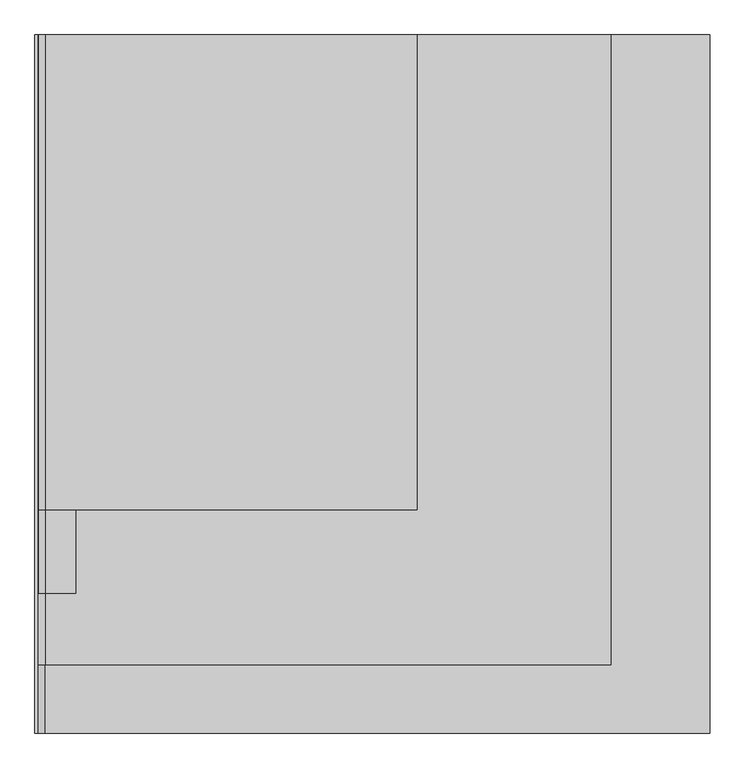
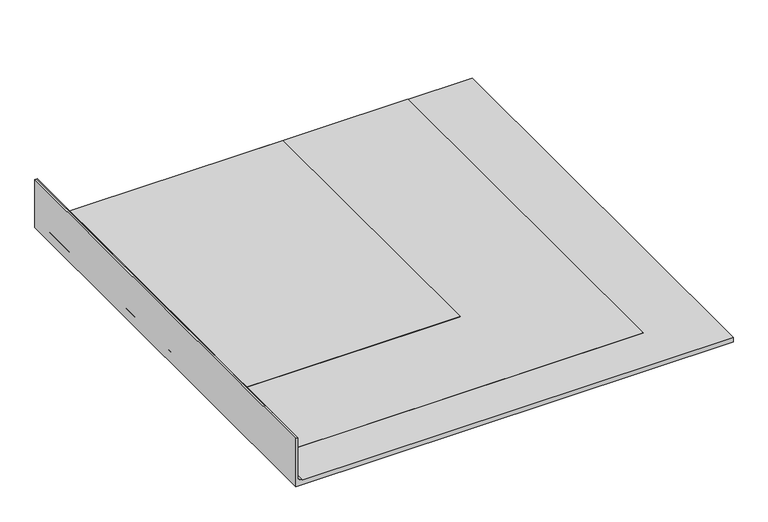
"""IFC4 building model written with IfcOpenShell, lengths in millimetres: proxy geometry, IMPER:IMPER:433934 : IMPER:IMPER:433934."""

from ifc_helpers import new_model, si_unit, point, frame, frame_2d, origin, place, context, project, spatial, polyline, circle_curve, trimmed, segment, composite_curve, outline, extrude, source, transform, mapped, element, save


def generic_models_90d27927(model_context):
    return source(origin(), model_context, "Body", "SweptSolid", [
        extrude(outline(composite_curve([segment(polyline([(29.3018705, -313.1733412), (29.3018705, 1105.5691572), (30.3018705, 1105.5691572), (30.3018705, -313.1518102)]), True, "CONTINUOUS"), segment(trimmed(circle_curve(frame_2d((57.476202, -311.9704105)), 27.2), [point((30.3018705, -313.1518102))], [point((56.6918921, -339.1591004))], True, "CARTESIAN"), True, "CONTINUOUS"), segment(polyline([(56.6918921, -339.1591004), (297.476202, -339.1591004), (297.476202, -340.1591004), (56.6776019, -340.1591004)]), True, "CONTINUOUS"), segment(trimmed(circle_curve(frame_2d((57.476202, -311.9704105)), 28.2), [point((56.6776019, -340.1591004))], [point((29.3018705, -313.1733412))], False, "CARTESIAN"), True, "CONTINUOUS")], self_intersect=False)), frame((0.0, -1663.6634516, 0.0), z_axis=(0.0, 1.0, 0.0), x_axis=(0.0, 0.0, 1.0)), (0.0, 0.0, 1.0), 1809.5334711),
        extrude(outline(composite_curve([segment(polyline([(28.5018705, -313.1902924), (28.5018705, -197.2985628), (29.3018705, -197.2985628), (29.3018705, -313.1733412)]), True, "CONTINUOUS"), segment(trimmed(circle_curve(frame_2d((57.476202, -311.9704105)), 28.2), [point((29.3018705, -313.1733412))], [point((56.6776019, -340.1591004))], True, "CARTESIAN"), True, "CONTINUOUS"), segment(polyline([(56.6776019, -340.1591004), (152.1770328, -340.1591004), (152.1770328, -340.9591004), (56.6663512, -340.9591004)]), True, "CONTINUOUS"), segment(trimmed(circle_curve(frame_2d((57.476202, -311.9704105)), 29.0), [point((56.6663512, -340.9591004))], [point((28.5018705, -313.1902924))], False, "CARTESIAN"), True, "CONTINUOUS")], self_intersect=False)), frame((0.0, -1981.6616434, 0.0), z_axis=(0.0, 1.0, 0.0), x_axis=(0.0, 0.0, 1.0)), (0.0, 0.0, 1.0), 2127.5316629),
        extrude(outline(composite_curve([segment(trimmed(circle_curve(frame_2d((57.476202, -311.9704105)), 30.0), [point((27.476202, -311.9704105))], [point((57.476202, -341.9704105))], True, "CARTESIAN"), True, "CONTINUOUS"), segment(polyline([(57.476202, -341.9704105), (297.476202, -341.9704105), (297.476202, -351.9704105), (-2.523798, -351.9704105), (-2.523798, 2221.8598581), (27.476202, 2221.8598581), (27.476202, -311.9704105)]), True, "CONTINUOUS")], self_intersect=False)), frame((0.0, -2514.1299805, 0.0), z_axis=(0.0, 1.0, 0.0), x_axis=(0.0, 0.0, 1.0)), (0.0, 0.0, 1.0), 2660.0),
        extrude(outline(composite_curve([segment(polyline([(56.6663512, -340.9591004), (297.476202, -340.9591004), (297.476202, -341.9704105), (57.476202, -341.9704105)]), True, "CONTINUOUS"), segment(trimmed(circle_curve(frame_2d((57.476202, -311.9704105)), 30.0), [point((57.476202, -341.9704105))], [point((27.476202, -311.9704105))], False, "CARTESIAN"), True, "CONTINUOUS"), segment(polyline([(27.476202, -311.9704105), (27.476202, 1843.8528814), (28.5018705, 1843.8528814), (28.5018705, -313.1902924)]), True, "CONTINUOUS"), segment(trimmed(circle_curve(frame_2d((57.476202, -311.9704105)), 29.0), [point((28.5018705, -313.1902924))], [point((56.6663512, -340.9591004))], True, "CARTESIAN"), True, "CONTINUOUS")], self_intersect=False)), frame((0.0, -2254.1299805, 0.0), z_axis=(0.0, 1.0, 0.0), x_axis=(0.0, 0.0, 1.0)), (0.0, 0.0, 1.0), 2400.0),
    ])


if __name__ == "__main__":
    model = new_model("IFC4")
    model_context = context("Model", 3, world=origin())
    ifc_project = project(units=[si_unit("LENGTHUNIT", "METRE", prefix="MILLI")], contexts=[model_context])
    site = spatial("IfcSite", under=ifc_project)
    building = spatial("IfcBuilding", under=site)
    placement = place(None, origin())
    generic_models_shape = generic_models_90d27927(model_context)
    element("IfcBuildingElementProxy", 1, Name="IMPER:IMPER:433934 : IMPER:IMPER:433934", ObjectType="IMPER:IMPER:433934 : IMPER:IMPER:433934", at=placement, inside=building, context=model_context, shape_type="MappedRepresentation", body=[
        mapped(generic_models_shape, transform((0.0, 0.0, 0.0), x_axis=(1.0, 0.0, 0.0), y_axis=(0.0, 1.0, 0.0), z_axis=(0.0, 0.0, 1.0))),
    ])
    save(model, "model.ifc")
